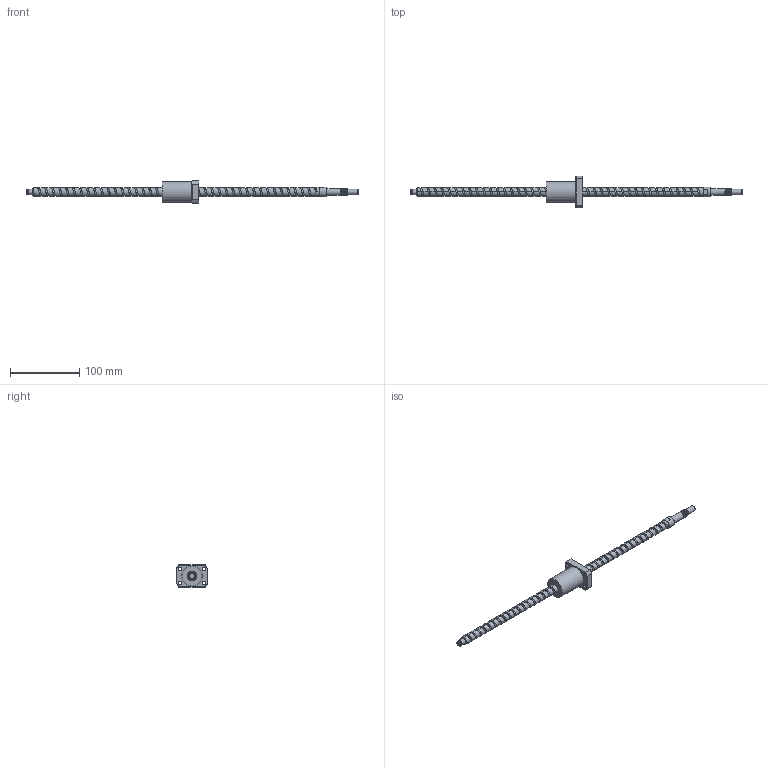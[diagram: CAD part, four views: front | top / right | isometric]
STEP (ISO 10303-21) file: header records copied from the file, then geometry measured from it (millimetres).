
FILE_DESCRIPTION (( 'STEP AP203' ), '1' );
FILE_NAME ('XSVR01210B1DGC5-480-P1.step', '2024-06-03T03:44:22', ( '' ), ( '' ), 'SwSTEP 2.0', 'SolidWorks 2022', '' );
FILE_SCHEMA (( 'CONFIG_CONTROL_DESIGN' ));
Length unit declared in the file: millimetre
Products named in the file (1): XSVR01210B1DGC5-480-P1
Bounding box: 480 x 45 x 32 mm (x, y, z)
Volume: 85159.8 mm3; surface area: 29878.9 mm2
Topology: 2 solids, 2 shells, 164 faces, 431 edges, 275 vertices
Faces by surface type: cylinder 81, plane 38, bspline 22, cone 14, torus 9
Full cylindrical faces by diameter (mm): 3.998 x1, 4 x2, 4.5 x4, 7.6 x1, 8 x7, 10 x10, 12 x41, 13.5 x1, 14 x1, 30 x1
Entity records: 20937 total; most frequent: CARTESIAN_POINT 18650, ORIENTED_EDGE 464, DIRECTION 394, EDGE_CURVE 232, AXIS2_PLACEMENT_3D 172, EDGE_LOOP 164, VERTEX_POINT 160, FACE_OUTER_BOUND 133
